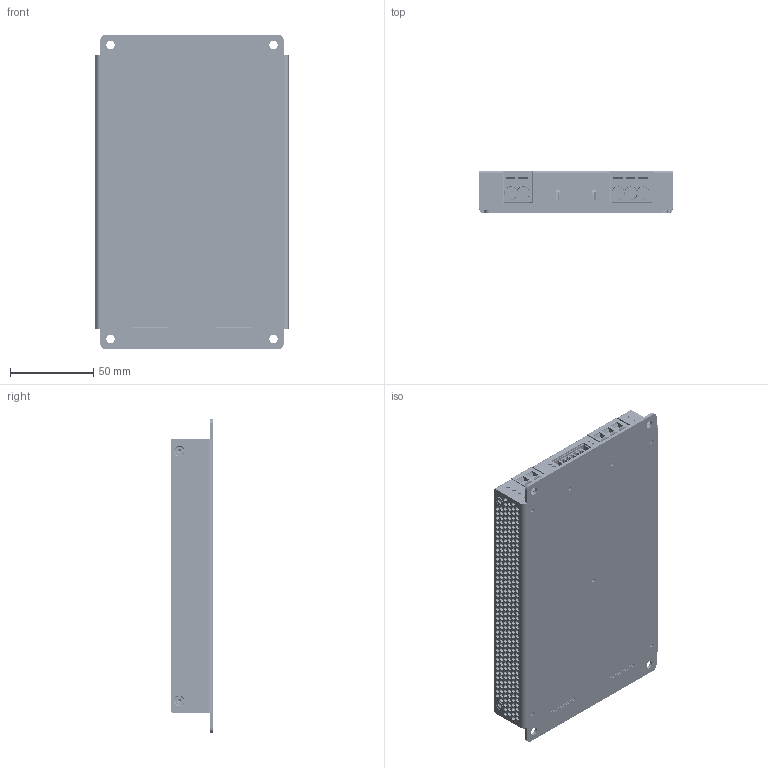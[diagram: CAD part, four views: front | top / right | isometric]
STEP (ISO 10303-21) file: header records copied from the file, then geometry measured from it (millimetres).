
FILE_DESCRIPTION (( 'STEP AP214' ), '1' );
FILE_NAME ('VCCR300 Customer Viewable-01.STEP', '2023-03-22T10:46:24', ( '' ), ( '' ), 'SwSTEP 2.0', 'SolidWorks 2023', '' );
FILE_SCHEMA (( 'AUTOMOTIVE_DESIGN' ));
Length unit declared in the file: millimetre
Products named in the file (1): VCCR300 Customer Viewable-01
Bounding box: 116 x 25.5 x 188.6 mm (x, y, z)
Volume: 488252.7 mm3; surface area: 144117.3 mm2
Topology: 27 solids, 27 shells, 5613 faces, 15956 edges, 10512 vertices
Faces by surface type: plane 2710, cylinder 2690, cone 171, torus 28, sphere 14
Entity records: 187578 total; most frequent: CARTESIAN_POINT 33354, DIRECTION 32711, ORIENTED_EDGE 31868, EDGE_CURVE 15934, AXIS2_PLACEMENT_3D 11366, VERTEX_POINT 10512, VECTOR 9979, LINE 9979
